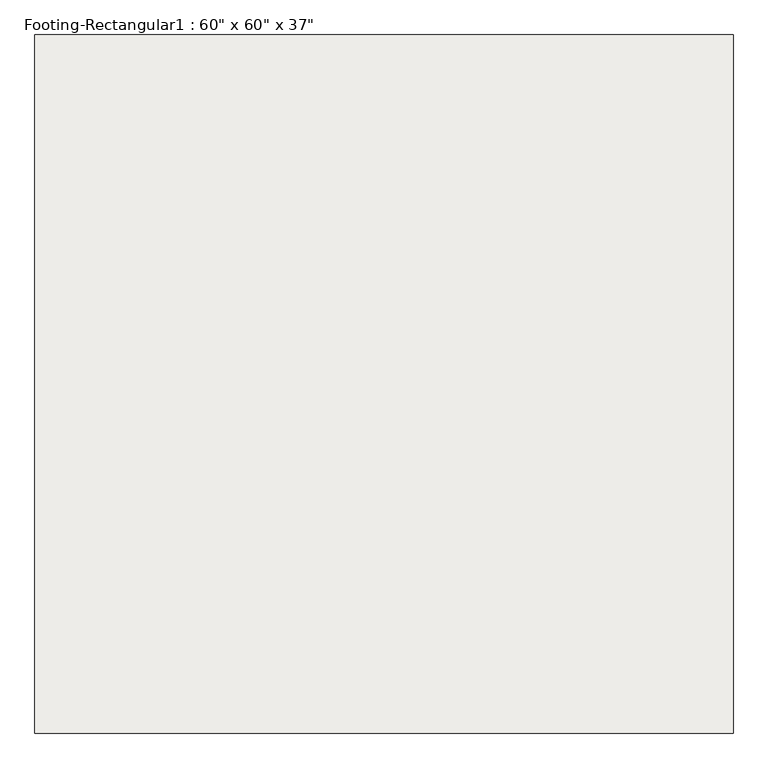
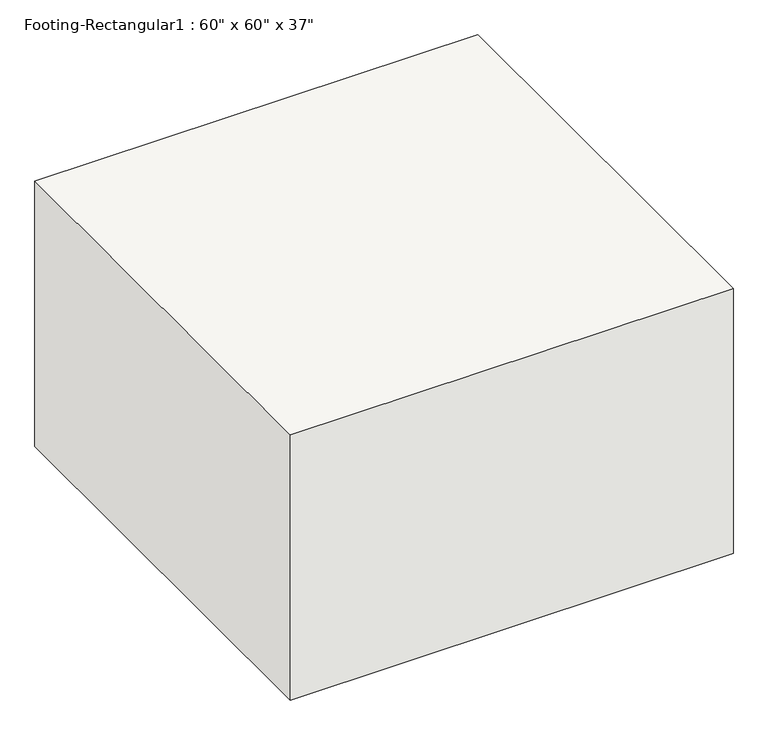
"""IFC4 building model written with IfcOpenShell, lengths in millimetres: slab geometry."""

from ifc_helpers import new_model, si_unit, frame, origin, place, context, project, spatial, polyline, outline, extrude, source, transform, mapped, element, save


def slab_28d08e25(model_context):
    return source(origin(), model_context, "Body", "SweptSolid", [
        extrude(outline(polyline([(750.0, 750.0), (750.0, -750.0), (-750.0, -750.0), (-750.0, 750.0), (750.0, 750.0)])), frame((0.0, 0.0, -950.0), z_axis=(0.0, 0.0, 1.0), x_axis=(1.0, 0.0, 0.0)), (0.0, 0.0, 1.0), 950.0),
    ])


if __name__ == "__main__":
    model = new_model("IFC4")
    model_context = context("Model", 3, world=origin())
    ifc_project = project(units=[si_unit("LENGTHUNIT", "METRE", prefix="MILLI")], contexts=[model_context])
    site = spatial("IfcSite", under=ifc_project)
    building = spatial("IfcBuilding", under=site)
    placement = place(None, origin())
    slab_shape = slab_28d08e25(model_context)
    element("IfcSlab", 1, ObjectType="Footing-Rectangular1 : 60\" x 60\" x 37\"", at=placement, inside=building, context=model_context, shape_type="MappedRepresentation", body=[
        mapped(slab_shape, transform((0.0, 0.0, 0.0), x_axis=(1.0, 0.0, 0.0), y_axis=(0.0, 1.0, 0.0), z_axis=(0.0, 0.0, 1.0))),
    ])
    save(model, "model.ifc")
